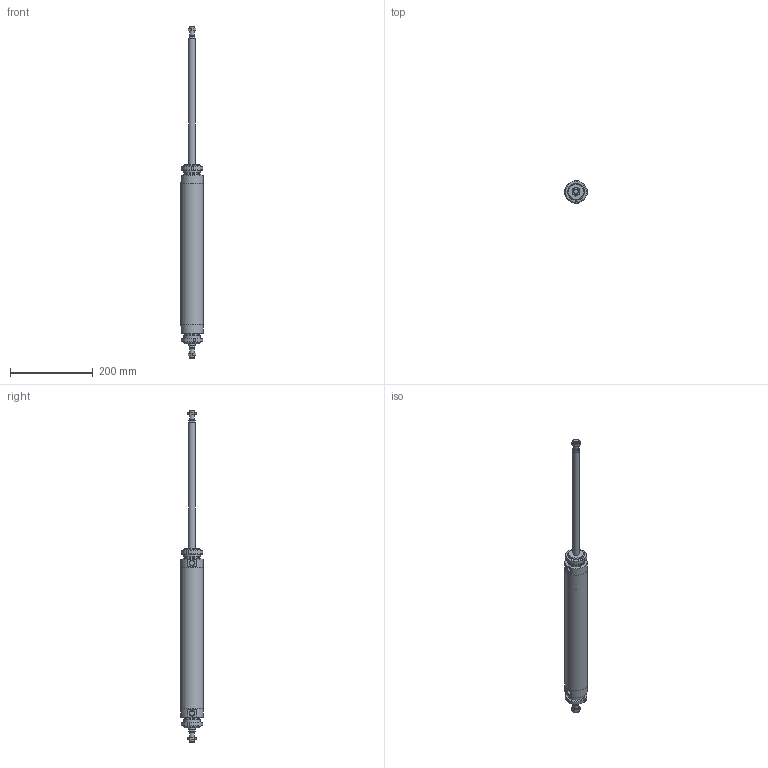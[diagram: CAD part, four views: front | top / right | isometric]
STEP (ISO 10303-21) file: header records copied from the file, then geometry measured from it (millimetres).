
FILE_DESCRIPTION(/* description */ (''),/* implementation_level */ '2;1');
FILE_NAME(/* name */ 'I:\Area Tecnica\Documenti\A-Manieri\_Inventor\12X\12X#S_###_####_#_#\12XCS_050_0300_#_#.stp',/* time_stamp */ '2015-05-08T14:19:11+02:00',/* author */ ('maniean1'),/* organization */ ('Pneumax S.p.A.'),/* preprocessor_version */ 'ST-DEVELOPER v15.2',/* originating_system */ 'Autodesk Inventor 2014',/* authorisation */ '');
FILE_SCHEMA (('AUTOMOTIVE_DESIGN { 1 0 10303 214 3 1 1 }'));
Length unit declared in the file: millimetre
Products named in the file (6): C1250_619-0300; 12X50_604; SP12X50_0300; 12X_50_11; G12X_050_05; 12XCS_050_0300_#_#
Bounding box: 54 x 54 x 802 mm (x, y, z)
Volume: 496996 mm3; surface area: 197219.6 mm2
Topology: 8 solids, 8 shells, 133 faces, 303 edges, 194 vertices
Faces by surface type: plane 66, cone 34, cylinder 33
Full cylindrical faces by diameter (mm): 10.2 x2, 11.4 x2, 12 x4, 14 x2, 15.6 x2, 16 x2, 38.2 x2, 40 x6, 50 x2, 54 x3
Entity records: 2300 total; most frequent: CARTESIAN_POINT 435, DIRECTION 388, ORIENTED_EDGE 310, AXIS2_PLACEMENT_3D 166, EDGE_CURVE 155, EDGE_LOOP 130, VERTEX_POINT 117, ADVANCED_FACE 85
